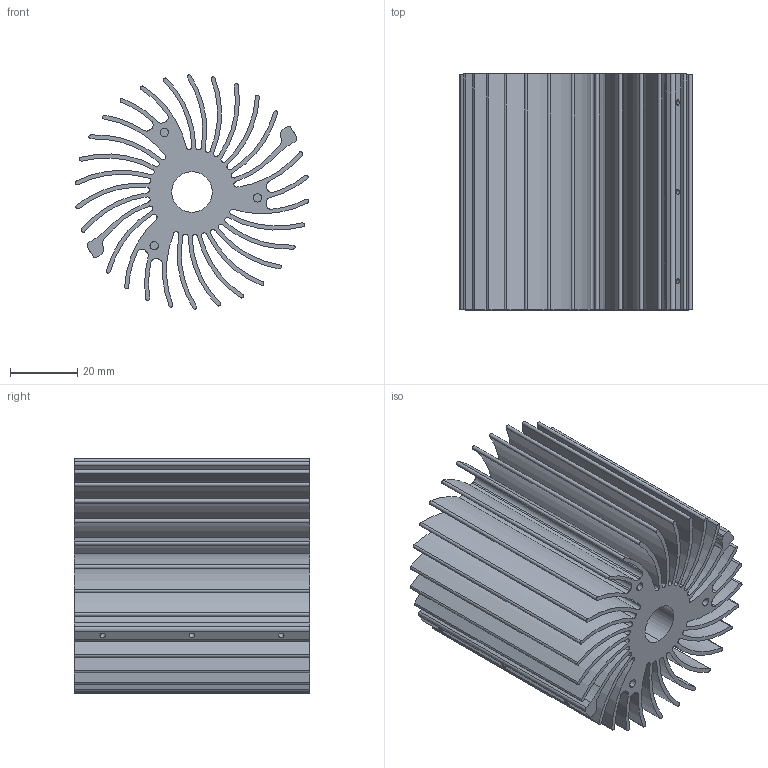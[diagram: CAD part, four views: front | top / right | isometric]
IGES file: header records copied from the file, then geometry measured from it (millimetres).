
Start section:  PTC IGES file: x00727-revb.igs
Global section: file name: x00727-revb.igs; native system: Pro/ENGINEER by Parametric Technology Corporation; preprocessor: 2010230; author: Jonah; organization: Unknown; date: 20120604.152631; units: millimetre
Bounding box: 69.31 x 70 x 69.51 mm (x, y, z)
Volume: 98377.5 mm3; surface area: 100941.1 mm2
Topology: 1 solids, 1 shells, 207 faces, 612 edges, 408 vertices
Faces by surface type: revolution 178, bspline 29
